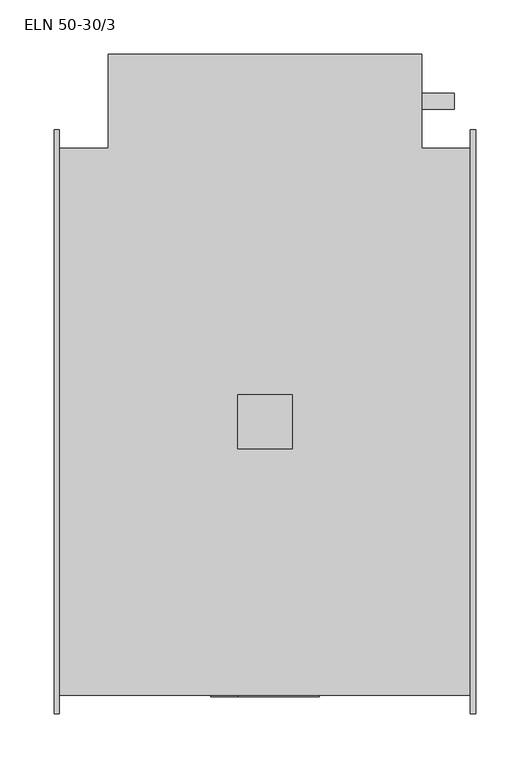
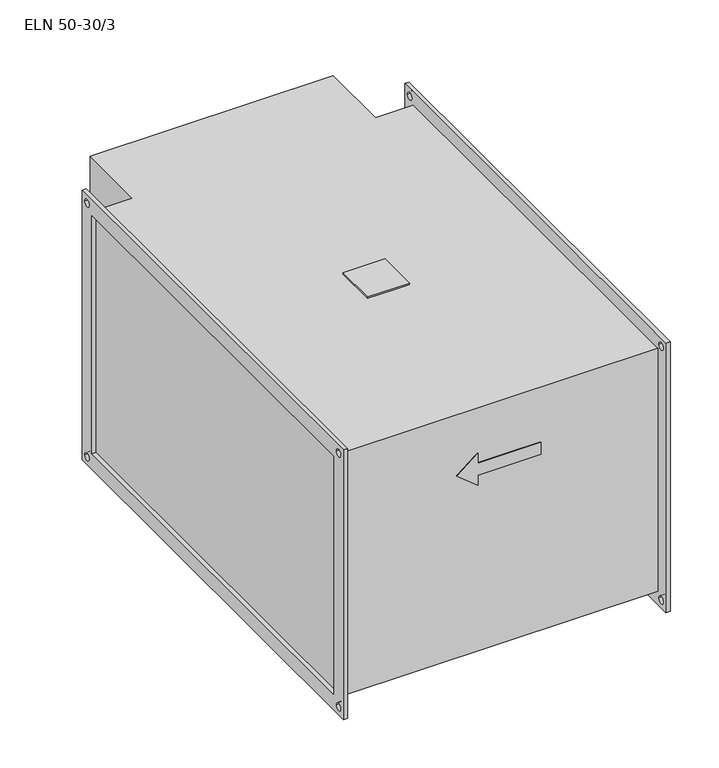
"""IFC4 building model written with IfcOpenShell, lengths in millimetres: proxy geometry, KORF_Нагреватель_Электрический_ELN : ELN 50-30/3."""

import ifcopenshell
import ifcopenshell.guid

model = None  # the IFC model being written
_history = None  # IfcOwnerHistory: only IFC2X3 demands one
_inside = {}  # id of a spatial element -> (the spatial element, [elements in it])
_under = {}  # id of a project, library or spatial element -> (it, [spatial elements below it])
_declared = {}  # id of a project -> (the project, [libraries it declares])
_typed = {}  # id of a type object -> (the type object, [elements of that type])
_made_of = {}  # id of a material, layer set ... -> (it, [elements and type objects made of it])


def new_model(schema):
    """Start an empty IFC model of exactly this schema.

    Asked for "IFC4X3", IfcOpenShell would pick the latest addendum, in which some entities
    have other attributes; the version numbers below select the first issue.
    IFC2X3 requires an IfcOwnerHistory on every rooted entity: one is made here for all.
    """
    global model, _history
    if schema == "IFC4X3":
        model = ifcopenshell.file(schema_version=(4, 3, 0, 0))
    else:
        model = ifcopenshell.file(schema=schema)
    _inside.clear()
    _under.clear()
    _declared.clear()
    _typed.clear()
    _made_of.clear()
    _history = None
    if model.schema == "IFC2X3":
        org = make("IfcOrganization", Name="unknown")
        user = make(
            "IfcPersonAndOrganization",
            ThePerson=make("IfcPerson", FamilyName="unknown"),
            TheOrganization=org,
        )
        app = make(
            "IfcApplication",
            ApplicationDeveloper=org,
            Version="unknown",
            ApplicationFullName="unknown",
            ApplicationIdentifier="unknown",
        )
        _history = make(
            "IfcOwnerHistory",
            OwningUser=user,
            OwningApplication=app,
            ChangeAction="ADDED",
            CreationDate=0,
        )
    return model


def make(cls, **values):
    """One entity of the class cls with the attributes given. An attribute that is None is left unset."""
    return model.create_entity(
        cls, **{name: value for name, value in values.items() if value is not None}
    )


def rooted(cls, **values):
    """An entity with a GlobalId (a new one), such as an element, a storey or a relation."""
    return make(cls, GlobalId=ifcopenshell.guid.new(), OwnerHistory=_history, **values)


def si_unit(unit_type, name, prefix=None):
    """IfcSIUnit, for example si_unit("LENGTHUNIT", "METRE", prefix="MILLI")."""
    return make("IfcSIUnit", UnitType=unit_type, Prefix=prefix, Name=name)


def assignment(units):
    """IfcUnitAssignment: the units of a project."""
    return None if units is None else make("IfcUnitAssignment", Units=units)


def point(xyz):
    """IfcCartesianPoint."""
    return None if xyz is None else make("IfcCartesianPoint", Coordinates=xyz)


def direction(xyz):
    """IfcDirection."""
    return None if xyz is None else make("IfcDirection", DirectionRatios=xyz)


def frame(location, z_axis=None, x_axis=None):
    """IfcAxis2Placement3D, a coordinate frame: its origin and axes. An axis left out is left unset."""
    return make(
        "IfcAxis2Placement3D",
        Location=point(location),
        Axis=direction(z_axis),
        RefDirection=direction(x_axis),
    )


def frame_2d(location, x_axis=None):
    """IfcAxis2Placement2D, a coordinate frame in the plane: its origin and x axis."""
    return make(
        "IfcAxis2Placement2D", Location=point(location), RefDirection=direction(x_axis)
    )


def origin():
    """The frame at (0, 0, 0) with its axes left unset."""
    return frame((0.0, 0.0, 0.0))


def place(relative_to, where):
    """IfcLocalPlacement: puts the frame where relative to a parent placement (None: the world)."""
    return make(
        "IfcLocalPlacement", PlacementRelTo=relative_to, RelativePlacement=where
    )


def context(
    kind, dimensions, precision=None, world=None, true_north=None, identifier=None
):
    """IfcGeometricRepresentationContext, for example the 3D "Model" context."""
    return make(
        "IfcGeometricRepresentationContext",
        ContextIdentifier=identifier,
        ContextType=kind,
        CoordinateSpaceDimension=dimensions,
        Precision=precision,
        WorldCoordinateSystem=world,
        TrueNorth=true_north,
    )


def project(units=None, contexts=None):
    """IfcProject with its units and contexts."""
    return rooted(
        "IfcProject",
        Name="project",
        RepresentationContexts=contexts,
        UnitsInContext=assignment(units),
    )


def spatial(cls, under=None, at=None, **own):
    """A site, building, storey or space (cls), placed at a placement, below another one or the project."""
    s = rooted(cls, ObjectPlacement=at, **own)
    if under is not None:
        _under.setdefault(under.id(), (under, []))[1].append(s)
    return s


def polyline(points):
    """IfcPolyline through the points."""
    return make("IfcPolyline", Points=[point(p) for p in points])


def circle_curve(where, radius):
    """IfcCircle in the frame where."""
    return make("IfcCircle", Position=where, Radius=radius)


def trimmed(basis, trim1, trim2, sense, master):
    """IfcTrimmedCurve: the piece of a basis curve between two trims."""
    return make(
        "IfcTrimmedCurve",
        BasisCurve=basis,
        Trim1=trim1,
        Trim2=trim2,
        SenseAgreement=sense,
        MasterRepresentation=master,
    )


def segment(curve, same_sense, transition):
    """IfcCompositeCurveSegment."""
    return make(
        "IfcCompositeCurveSegment",
        Transition=transition,
        SameSense=same_sense,
        ParentCurve=curve,
    )


def composite_curve(segments, self_intersect=None):
    """IfcCompositeCurve: segments joined end to end."""
    return make("IfcCompositeCurve", Segments=segments, SelfIntersect=self_intersect)


def outline(outer, holes=None, kind="AREA"):
    """IfcArbitraryClosedProfileDef: a profile drawn as a closed curve; with holes, ...WithVoids."""
    if holes is None:
        return make("IfcArbitraryClosedProfileDef", ProfileType=kind, OuterCurve=outer)
    return make(
        "IfcArbitraryProfileDefWithVoids",
        ProfileType=kind,
        OuterCurve=outer,
        InnerCurves=holes,
    )


def extrude(swept, where, along, depth):
    """IfcExtrudedAreaSolid: the profile swept, set in the frame where, extruded along a direction by depth."""
    return make(
        "IfcExtrudedAreaSolid",
        SweptArea=swept,
        Position=where,
        ExtrudedDirection=direction(along),
        Depth=depth,
    )


def shape(context_of_items, identifier, shape_type, items):
    """IfcShapeRepresentation: the items that make up one representation, for example the "Body"."""
    return make(
        "IfcShapeRepresentation",
        ContextOfItems=context_of_items,
        RepresentationIdentifier=identifier,
        RepresentationType=shape_type,
        Items=items,
    )


def source(mapping_origin, context_of_items, identifier, shape_type, items):
    """IfcRepresentationMap: a shape defined once, which mapped items show again and again."""
    return make(
        "IfcRepresentationMap",
        MappingOrigin=mapping_origin,
        MappedRepresentation=shape(context_of_items, identifier, shape_type, items),
    )


def transform(
    local_origin,
    x_axis=None,
    y_axis=None,
    z_axis=None,
    scale=None,
    scale2=None,
    scale3=None,
    uniform=True,
):
    """IfcCartesianTransformationOperator3D, or its non-uniform kind. x_axis, y_axis, z_axis: its Axis1, 2, 3."""
    if uniform:
        return make(
            "IfcCartesianTransformationOperator3D",
            Axis1=direction(x_axis),
            Axis2=direction(y_axis),
            LocalOrigin=point(local_origin),
            Scale=scale,
            Axis3=direction(z_axis),
        )
    return make(
        "IfcCartesianTransformationOperator3DnonUniform",
        Axis1=direction(x_axis),
        Axis2=direction(y_axis),
        LocalOrigin=point(local_origin),
        Scale=scale,
        Axis3=direction(z_axis),
        Scale2=scale2,
        Scale3=scale3,
    )


def mapped(mapping_source, mapping_target):
    """IfcMappedItem: shows the shape of a source again, moved by a transform."""
    return make(
        "IfcMappedItem", MappingSource=mapping_source, MappingTarget=mapping_target
    )


def made_of(thing, what):
    """Note that an element or type object is made of a material, layer set ...; save() writes the relation."""
    if what is not None:
        _made_of.setdefault(what.id(), (what, []))[1].append(thing)
    return thing


def element(
    cls,
    number,
    at=None,
    inside=None,
    cuts=None,
    type_object=None,
    material=None,
    context=None,
    identifier="Body",
    shape_type=None,
    held_by="IfcProductDefinitionShape",
    body=None,
    shapes=None,
    **own,
):
    """One element of the class cls, such as IfcWall. Its Tag is "e" and its number.

    at: its placement. inside: the storey or other place that contains it. cuts: it is an
    opening in that element (IfcRelVoidsElement). A single representation is given by context,
    identifier, shape_type and body (its items); several are given by shapes. held_by: the class
    of the entity that holds the representations. save() writes the other relations.
    """
    e = rooted(cls, Tag="e%d" % number, ObjectPlacement=at, **own)
    if body is not None:
        shapes = [shape(context, identifier, shape_type, body)]
    if shapes is not None:
        e.Representation = make(held_by, Representations=shapes)
    if inside is not None:
        _inside.setdefault(inside.id(), (inside, []))[1].append(e)
    if cuts is not None:
        rooted(
            "IfcRelVoidsElement", RelatingBuildingElement=cuts, RelatedOpeningElement=e
        )
    if type_object is not None:
        _typed.setdefault(type_object.id(), (type_object, []))[1].append(e)
    return made_of(e, material)


def aggregate(whole, parts):
    """IfcRelAggregates: a whole, such as a stair, and the parts it consists of."""
    return rooted("IfcRelAggregates", RelatingObject=whole, RelatedObjects=parts)


def save(model, path):
    """Write the relations noted so far, then the file.

    IfcRelAggregates (storeys below a building ...), IfcRelContainedInSpatialStructure (elements
    in a storey), IfcRelDefinesByType, IfcRelAssociatesMaterial and IfcRelDeclares: one each for
    every whole, place, type object, material and project.
    """
    for whole, parts in _under.values():
        aggregate(whole, parts)
    for where, things in _inside.values():
        rooted(
            "IfcRelContainedInSpatialStructure",
            RelatedElements=things,
            RelatingStructure=where,
        )
    for kind, things in _typed.values():
        rooted("IfcRelDefinesByType", RelatedObjects=things, RelatingType=kind)
    for what, things in _made_of.values():
        rooted("IfcRelAssociatesMaterial", RelatedObjects=things, RelatingMaterial=what)
    for by, libraries in _declared.values():
        rooted("IfcRelDeclares", RelatingContext=by, RelatedDefinitions=libraries)
    model.write(path)


def eln_50_30_3_2654330d(model_context):
    return source(origin(), model_context, "Body", "SweptSolid", [
        extrude(outline(polyline([(170.0, -25.0), (170.0, 25.0), (220.0, 25.0), (220.0, -25.0), (170.0, -25.0)])), frame((0.0, 0.0, 153.0), z_axis=(0.0, 0.0, 1.0), x_axis=(1.0, 0.0, 0.0)), (0.0, 0.0, 1.0), 2.0),
        extrude(outline(composite_curve([segment(trimmed(circle_curve(frame_2d((296.5, -76.5)), 7.5), [point((289.0, -76.5))], [point((304.0, -76.5))], False, "CARTESIAN"), True, "CONTINUOUS"), segment(trimmed(circle_curve(frame_2d((296.5, -76.5)), 7.5), [point((304.0, -76.5))], [point((289.0, -76.5))], False, "CARTESIAN"), True, "CONTINUOUS")], self_intersect=False)), frame((340.0, 0.0, 0.0), z_axis=(1.0, 0.0, 0.0), x_axis=(0.0, 1.0, 0.0)), (0.0, 0.0, 1.0), 30.0),
        extrude(outline(composite_curve([segment(trimmed(circle_curve(frame_2d((296.5, -56.5)), 7.5), [point((289.0, -56.5))], [point((304.0, -56.5))], False, "CARTESIAN"), True, "CONTINUOUS"), segment(trimmed(circle_curve(frame_2d((296.5, -56.5)), 7.5), [point((304.0, -56.5))], [point((289.0, -56.5))], False, "CARTESIAN"), True, "CONTINUOUS")], self_intersect=False)), frame((340.0, 0.0, 0.0), z_axis=(1.0, 0.0, 0.0), x_axis=(0.0, 1.0, 0.0)), (0.0, 0.0, 1.0), 30.0),
        extrude(outline(composite_curve([segment(trimmed(circle_curve(frame_2d((296.5, -96.5)), 7.5), [point((289.0, -96.5))], [point((304.0, -96.5))], False, "CARTESIAN"), True, "CONTINUOUS"), segment(trimmed(circle_curve(frame_2d((296.5, -96.5)), 7.5), [point((304.0, -96.5))], [point((289.0, -96.5))], False, "CARTESIAN"), True, "CONTINUOUS")], self_intersect=False)), frame((340.0, 0.0, 0.0), z_axis=(1.0, 0.0, 0.0), x_axis=(0.0, 1.0, 0.0)), (0.0, 0.0, 1.0), 30.0),
        extrude(outline(polyline([(96.5, 170.0), (76.5, 145.0), (56.5, 170.0), (69.0, 170.0), (69.0, 245.0), (84.0, 245.0), (84.0, 170.0), (96.5, 170.0)])), frame((0.0, -254.0, 0.0), z_axis=(0.0, 1.0, 0.0), x_axis=(0.0, 0.0, 1.0)), (0.0, 0.0, 1.0), 1.0),
        extrude(outline(polyline([(385.0, 253.0), (385.0, -253.0), (5.0, -253.0), (5.0, 253.0), (50.0, 253.0), (50.0, 340.0), (340.0, 340.0), (340.0, 253.0), (385.0, 253.0)])), frame((0.0, 0.0, -153.0), z_axis=(0.0, 0.0, 1.0), x_axis=(1.0, 0.0, 0.0)), (0.0, 0.0, 1.0), 306.0),
        extrude(outline(polyline([(-270.0, 170.0), (270.0, 170.0), (270.0, -170.0), (-270.0, -170.0), (-270.0, 170.0)]), holes=[polyline([(-250.0, 150.0), (-250.0, -150.0), (250.0, -150.0), (250.0, 150.0), (-250.0, 150.0)]), composite_curve([segment(trimmed(circle_curve(frame_2d((260.0, 160.0)), 4.5), [point((255.5, 160.0))], [point((264.5, 160.0))], True, "CARTESIAN"), True, "CONTINUOUS"), segment(trimmed(circle_curve(frame_2d((260.0, 160.0)), 4.5), [point((264.5, 160.0))], [point((255.5, 160.0))], True, "CARTESIAN"), True, "CONTINUOUS")], self_intersect=False), composite_curve([segment(trimmed(circle_curve(frame_2d((-260.0, 160.0)), 4.5), [point((-264.5, 160.0))], [point((-255.5, 160.0))], True, "CARTESIAN"), True, "CONTINUOUS"), segment(trimmed(circle_curve(frame_2d((-260.0, 160.0)), 4.5), [point((-255.5, 160.0))], [point((-264.5, 160.0))], True, "CARTESIAN"), True, "CONTINUOUS")], self_intersect=False), composite_curve([segment(trimmed(circle_curve(frame_2d((-260.0, -160.0)), 4.5), [point((-264.5, -160.0))], [point((-255.5, -160.0))], True, "CARTESIAN"), True, "CONTINUOUS"), segment(trimmed(circle_curve(frame_2d((-260.0, -160.0)), 4.5), [point((-255.5, -160.0))], [point((-264.5, -160.0))], True, "CARTESIAN"), True, "CONTINUOUS")], self_intersect=False), composite_curve([segment(trimmed(circle_curve(frame_2d((260.0, -160.0)), 4.5), [point((255.5, -160.0))], [point((264.5, -160.0))], True, "CARTESIAN"), True, "CONTINUOUS"), segment(trimmed(circle_curve(frame_2d((260.0, -160.0)), 4.5), [point((264.5, -160.0))], [point((255.5, -160.0))], True, "CARTESIAN"), True, "CONTINUOUS")], self_intersect=False)]), frame((385.0, 0.0, 0.0), z_axis=(1.0, 0.0, 0.0), x_axis=(0.0, 1.0, 0.0)), (0.0, 0.0, 1.0), 5.0),
        extrude(outline(polyline([(-270.0, 170.0), (270.0, 170.0), (270.0, -170.0), (-270.0, -170.0), (-270.0, 170.0)]), holes=[polyline([(-250.0, 150.0), (-250.0, -150.0), (250.0, -150.0), (250.0, 150.0), (-250.0, 150.0)]), composite_curve([segment(trimmed(circle_curve(frame_2d((260.0, 160.0)), 4.5), [point((255.5, 160.0))], [point((264.5, 160.0))], True, "CARTESIAN"), True, "CONTINUOUS"), segment(trimmed(circle_curve(frame_2d((260.0, 160.0)), 4.5), [point((264.5, 160.0))], [point((255.5, 160.0))], True, "CARTESIAN"), True, "CONTINUOUS")], self_intersect=False), composite_curve([segment(trimmed(circle_curve(frame_2d((-260.0, 160.0)), 4.5), [point((-264.5, 160.0))], [point((-255.5, 160.0))], True, "CARTESIAN"), True, "CONTINUOUS"), segment(trimmed(circle_curve(frame_2d((-260.0, 160.0)), 4.5), [point((-255.5, 160.0))], [point((-264.5, 160.0))], True, "CARTESIAN"), True, "CONTINUOUS")], self_intersect=False), composite_curve([segment(trimmed(circle_curve(frame_2d((-260.0, -160.0)), 4.5), [point((-264.5, -160.0))], [point((-255.5, -160.0))], True, "CARTESIAN"), True, "CONTINUOUS"), segment(trimmed(circle_curve(frame_2d((-260.0, -160.0)), 4.5), [point((-255.5, -160.0))], [point((-264.5, -160.0))], True, "CARTESIAN"), True, "CONTINUOUS")], self_intersect=False), composite_curve([segment(trimmed(circle_curve(frame_2d((260.0, -160.0)), 4.5), [point((255.5, -160.0))], [point((264.5, -160.0))], True, "CARTESIAN"), True, "CONTINUOUS"), segment(trimmed(circle_curve(frame_2d((260.0, -160.0)), 4.5), [point((264.5, -160.0))], [point((255.5, -160.0))], True, "CARTESIAN"), True, "CONTINUOUS")], self_intersect=False)]), frame((0.0, 0.0, 0.0), z_axis=(1.0, 0.0, 0.0), x_axis=(0.0, 1.0, 0.0)), (0.0, 0.0, 1.0), 5.0),
    ])


if __name__ == "__main__":
    model = new_model("IFC4")
    model_context = context("Model", 3, world=origin())
    ifc_project = project(units=[si_unit("LENGTHUNIT", "METRE", prefix="MILLI")], contexts=[model_context])
    site = spatial("IfcSite", under=ifc_project)
    building = spatial("IfcBuilding", under=site)
    placement = place(None, origin())
    eln_50_30_3_shape = eln_50_30_3_2654330d(model_context)
    element("IfcBuildingElementProxy", 1, Name="KORF_Нагреватель_Электрический_ELN : ELN 50-30/3", ObjectType="KORF_Нагреватель_Электрический_ELN : ELN 50-30/3", at=placement, inside=building, context=model_context, shape_type="MappedRepresentation", body=[
        mapped(eln_50_30_3_shape, transform((0.0, 0.0, 0.0), x_axis=(1.0, 0.0, 0.0), y_axis=(0.0, 1.0, 0.0), z_axis=(0.0, 0.0, 1.0))),
    ])
    save(model, "model.ifc")
